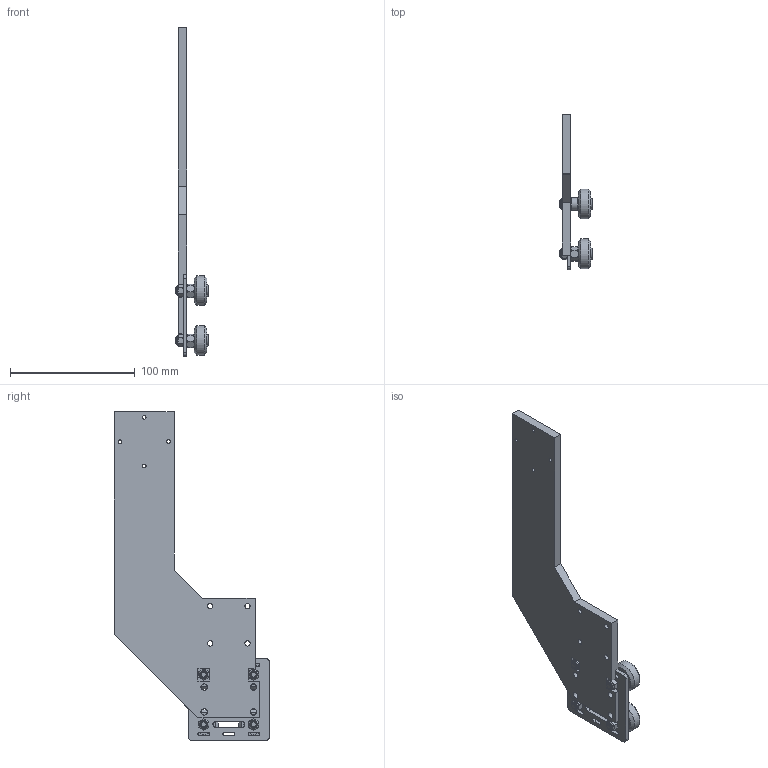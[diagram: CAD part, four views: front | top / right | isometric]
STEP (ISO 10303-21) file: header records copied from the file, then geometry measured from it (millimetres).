
FILE_DESCRIPTION(/* description */ ('STEP AP242 Edition 2','CAx-IF Rec.Pracs.---Representation and Presentation of Product Manufacturing Information (PMI)---4.0---2014-10-13','CAx-IF Rec.Pracs.---3D Tessellated Geometry---0.4---2014-09-14','2;1','CAx-IF Rec.Pracs.---User Defined Attributes---1.5---2016-08-15'),/* implementation_level */ '2;1');
FILE_NAME(/* name */ 'Right Y-Axis Assembly',/* time_stamp */ '2025-11-29T19:53:32Z',/* author */ (''),/* organization */ (''),/* preprocessor_version */ 'ST-DEVELOPER v20',/* originating_system */ 'ONSHAPE BY PTC INC, 1.207',/* authorisation */ ' ');
FILE_SCHEMA (('AP242_MANAGED_MODEL_BASED_3D_ENGINEERING_MIM_LF { 1 0 10303 442 3 1 4 }'));
Length unit declared in the file: metre
Products named in the file (11): Right Y-Axis Assembly; Gantry <1>; Low Profile Screw M5 v1; Nylon Insert Lock Nut M5 v1; Xtreme Solid V Wheel v1; Precision Shim 8 x 5 x 1 v1; V-Slot Gantry Plate 20mm v1; Eccentric Spacer 6mm v1; Aluminum Spacer 6mm v1; Ball Bearing 5 x 16 x 5 v1; Part 1
Assembly tree (31 placements, depth 3):
  Right Y-Axis Assembly
    Gantry <1>
      Low Profile Screw M5 v1  x4
      Nylon Insert Lock Nut M5 v1  x4
      Xtreme Solid V Wheel v1  x4
      Precision Shim 8 x 5 x 1 v1  x4
      V-Slot Gantry Plate 20mm v1
      Eccentric Spacer 6mm v1  x2
      Aluminum Spacer 6mm v1  x2
      Ball Bearing 5 x 16 x 5 v1  x8
    Part 1
Bounding box: 27 x 124.7 x 263.89 mm (x, y, z)
Volume: 134697.6 mm3; surface area: 64931 mm2
Topology: 30 solids, 30 shells, 464 faces, 972 edges, 626 vertices
Faces by surface type: plane 217, cylinder 143, cone 96, torus 8
Full cylindrical faces by diameter (mm): 3 x4, 4.2 x4, 4.25 x4, 5 x22, 5.1 x18, 5.3 x4, 7.11 x2, 7.2 x3, 8 x4, 8.6 x16, 10 x2, 13.6 x16, 14 x4, 16 x16, 23.9 x4
Entity records: 5791 total; most frequent: CARTESIAN_POINT 1018, DIRECTION 949, ORIENTED_EDGE 792, EDGE_CURVE 396, AXIS2_PLACEMENT_3D 388, EDGE_LOOP 339, FACE_BOUND 339, VERTEX_POINT 295
